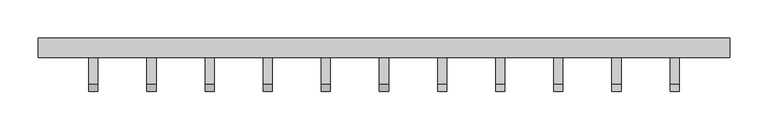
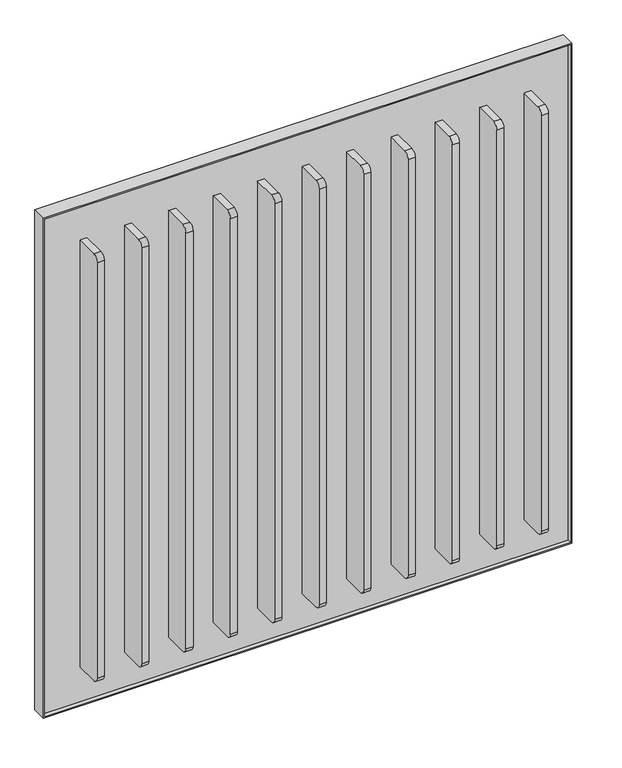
"""IFC4 building model written with IfcOpenShell, lengths in millimetres: proxy geometry, Frame_Cascade 6.3dm."""

import ifcopenshell
import ifcopenshell.guid

model = None  # the IFC model being written
_history = None  # IfcOwnerHistory: only IFC2X3 demands one
_inside = {}  # id of a spatial element -> (the spatial element, [elements in it])
_under = {}  # id of a project, library or spatial element -> (it, [spatial elements below it])
_declared = {}  # id of a project -> (the project, [libraries it declares])
_typed = {}  # id of a type object -> (the type object, [elements of that type])
_made_of = {}  # id of a material, layer set ... -> (it, [elements and type objects made of it])


def new_model(schema):
    """Start an empty IFC model of exactly this schema.

    Asked for "IFC4X3", IfcOpenShell would pick the latest addendum, in which some entities
    have other attributes; the version numbers below select the first issue.
    IFC2X3 requires an IfcOwnerHistory on every rooted entity: one is made here for all.
    """
    global model, _history
    if schema == "IFC4X3":
        model = ifcopenshell.file(schema_version=(4, 3, 0, 0))
    else:
        model = ifcopenshell.file(schema=schema)
    _inside.clear()
    _under.clear()
    _declared.clear()
    _typed.clear()
    _made_of.clear()
    _history = None
    if model.schema == "IFC2X3":
        org = make("IfcOrganization", Name="unknown")
        user = make(
            "IfcPersonAndOrganization",
            ThePerson=make("IfcPerson", FamilyName="unknown"),
            TheOrganization=org,
        )
        app = make(
            "IfcApplication",
            ApplicationDeveloper=org,
            Version="unknown",
            ApplicationFullName="unknown",
            ApplicationIdentifier="unknown",
        )
        _history = make(
            "IfcOwnerHistory",
            OwningUser=user,
            OwningApplication=app,
            ChangeAction="ADDED",
            CreationDate=0,
        )
    return model


def make(cls, **values):
    """One entity of the class cls with the attributes given. An attribute that is None is left unset."""
    return model.create_entity(
        cls, **{name: value for name, value in values.items() if value is not None}
    )


def rooted(cls, **values):
    """An entity with a GlobalId (a new one), such as an element, a storey or a relation."""
    return make(cls, GlobalId=ifcopenshell.guid.new(), OwnerHistory=_history, **values)


def si_unit(unit_type, name, prefix=None):
    """IfcSIUnit, for example si_unit("LENGTHUNIT", "METRE", prefix="MILLI")."""
    return make("IfcSIUnit", UnitType=unit_type, Prefix=prefix, Name=name)


def assignment(units):
    """IfcUnitAssignment: the units of a project."""
    return None if units is None else make("IfcUnitAssignment", Units=units)


def point(xyz):
    """IfcCartesianPoint."""
    return None if xyz is None else make("IfcCartesianPoint", Coordinates=xyz)


def direction(xyz):
    """IfcDirection."""
    return None if xyz is None else make("IfcDirection", DirectionRatios=xyz)


def frame(location, z_axis=None, x_axis=None):
    """IfcAxis2Placement3D, a coordinate frame: its origin and axes. An axis left out is left unset."""
    return make(
        "IfcAxis2Placement3D",
        Location=point(location),
        Axis=direction(z_axis),
        RefDirection=direction(x_axis),
    )


def frame_2d(location, x_axis=None):
    """IfcAxis2Placement2D, a coordinate frame in the plane: its origin and x axis."""
    return make(
        "IfcAxis2Placement2D", Location=point(location), RefDirection=direction(x_axis)
    )


def origin():
    """The frame at (0, 0, 0) with its axes left unset."""
    return frame((0.0, 0.0, 0.0))


def place(relative_to, where):
    """IfcLocalPlacement: puts the frame where relative to a parent placement (None: the world)."""
    return make(
        "IfcLocalPlacement", PlacementRelTo=relative_to, RelativePlacement=where
    )


def context(
    kind, dimensions, precision=None, world=None, true_north=None, identifier=None
):
    """IfcGeometricRepresentationContext, for example the 3D "Model" context."""
    return make(
        "IfcGeometricRepresentationContext",
        ContextIdentifier=identifier,
        ContextType=kind,
        CoordinateSpaceDimension=dimensions,
        Precision=precision,
        WorldCoordinateSystem=world,
        TrueNorth=true_north,
    )


def project(units=None, contexts=None):
    """IfcProject with its units and contexts."""
    return rooted(
        "IfcProject",
        Name="project",
        RepresentationContexts=contexts,
        UnitsInContext=assignment(units),
    )


def spatial(cls, under=None, at=None, **own):
    """A site, building, storey or space (cls), placed at a placement, below another one or the project."""
    s = rooted(cls, ObjectPlacement=at, **own)
    if under is not None:
        _under.setdefault(under.id(), (under, []))[1].append(s)
    return s


def polyline(points):
    """IfcPolyline through the points."""
    return make("IfcPolyline", Points=[point(p) for p in points])


def circle_curve(where, radius):
    """IfcCircle in the frame where."""
    return make("IfcCircle", Position=where, Radius=radius)


def trimmed(basis, trim1, trim2, sense, master):
    """IfcTrimmedCurve: the piece of a basis curve between two trims."""
    return make(
        "IfcTrimmedCurve",
        BasisCurve=basis,
        Trim1=trim1,
        Trim2=trim2,
        SenseAgreement=sense,
        MasterRepresentation=master,
    )


def segment(curve, same_sense, transition):
    """IfcCompositeCurveSegment."""
    return make(
        "IfcCompositeCurveSegment",
        Transition=transition,
        SameSense=same_sense,
        ParentCurve=curve,
    )


def composite_curve(segments, self_intersect=None):
    """IfcCompositeCurve: segments joined end to end."""
    return make("IfcCompositeCurve", Segments=segments, SelfIntersect=self_intersect)


def outline(outer, holes=None, kind="AREA"):
    """IfcArbitraryClosedProfileDef: a profile drawn as a closed curve; with holes, ...WithVoids."""
    if holes is None:
        return make("IfcArbitraryClosedProfileDef", ProfileType=kind, OuterCurve=outer)
    return make(
        "IfcArbitraryProfileDefWithVoids",
        ProfileType=kind,
        OuterCurve=outer,
        InnerCurves=holes,
    )


def extrude(swept, where, along, depth):
    """IfcExtrudedAreaSolid: the profile swept, set in the frame where, extruded along a direction by depth."""
    return make(
        "IfcExtrudedAreaSolid",
        SweptArea=swept,
        Position=where,
        ExtrudedDirection=direction(along),
        Depth=depth,
    )


def shape(context_of_items, identifier, shape_type, items):
    """IfcShapeRepresentation: the items that make up one representation, for example the "Body"."""
    return make(
        "IfcShapeRepresentation",
        ContextOfItems=context_of_items,
        RepresentationIdentifier=identifier,
        RepresentationType=shape_type,
        Items=items,
    )


def source(mapping_origin, context_of_items, identifier, shape_type, items):
    """IfcRepresentationMap: a shape defined once, which mapped items show again and again."""
    return make(
        "IfcRepresentationMap",
        MappingOrigin=mapping_origin,
        MappedRepresentation=shape(context_of_items, identifier, shape_type, items),
    )


def transform(
    local_origin,
    x_axis=None,
    y_axis=None,
    z_axis=None,
    scale=None,
    scale2=None,
    scale3=None,
    uniform=True,
):
    """IfcCartesianTransformationOperator3D, or its non-uniform kind. x_axis, y_axis, z_axis: its Axis1, 2, 3."""
    if uniform:
        return make(
            "IfcCartesianTransformationOperator3D",
            Axis1=direction(x_axis),
            Axis2=direction(y_axis),
            LocalOrigin=point(local_origin),
            Scale=scale,
            Axis3=direction(z_axis),
        )
    return make(
        "IfcCartesianTransformationOperator3DnonUniform",
        Axis1=direction(x_axis),
        Axis2=direction(y_axis),
        LocalOrigin=point(local_origin),
        Scale=scale,
        Axis3=direction(z_axis),
        Scale2=scale2,
        Scale3=scale3,
    )


def mapped(mapping_source, mapping_target):
    """IfcMappedItem: shows the shape of a source again, moved by a transform."""
    return make(
        "IfcMappedItem", MappingSource=mapping_source, MappingTarget=mapping_target
    )


def made_of(thing, what):
    """Note that an element or type object is made of a material, layer set ...; save() writes the relation."""
    if what is not None:
        _made_of.setdefault(what.id(), (what, []))[1].append(thing)
    return thing


def element(
    cls,
    number,
    at=None,
    inside=None,
    cuts=None,
    type_object=None,
    material=None,
    context=None,
    identifier="Body",
    shape_type=None,
    held_by="IfcProductDefinitionShape",
    body=None,
    shapes=None,
    **own,
):
    """One element of the class cls, such as IfcWall. Its Tag is "e" and its number.

    at: its placement. inside: the storey or other place that contains it. cuts: it is an
    opening in that element (IfcRelVoidsElement). A single representation is given by context,
    identifier, shape_type and body (its items); several are given by shapes. held_by: the class
    of the entity that holds the representations. save() writes the other relations.
    """
    e = rooted(cls, Tag="e%d" % number, ObjectPlacement=at, **own)
    if body is not None:
        shapes = [shape(context, identifier, shape_type, body)]
    if shapes is not None:
        e.Representation = make(held_by, Representations=shapes)
    if inside is not None:
        _inside.setdefault(inside.id(), (inside, []))[1].append(e)
    if cuts is not None:
        rooted(
            "IfcRelVoidsElement", RelatingBuildingElement=cuts, RelatedOpeningElement=e
        )
    if type_object is not None:
        _typed.setdefault(type_object.id(), (type_object, []))[1].append(e)
    return made_of(e, material)


def aggregate(whole, parts):
    """IfcRelAggregates: a whole, such as a stair, and the parts it consists of."""
    return rooted("IfcRelAggregates", RelatingObject=whole, RelatedObjects=parts)


def save(model, path):
    """Write the relations noted so far, then the file.

    IfcRelAggregates (storeys below a building ...), IfcRelContainedInSpatialStructure (elements
    in a storey), IfcRelDefinesByType, IfcRelAssociatesMaterial and IfcRelDeclares: one each for
    every whole, place, type object, material and project.
    """
    for whole, parts in _under.values():
        aggregate(whole, parts)
    for where, things in _inside.values():
        rooted(
            "IfcRelContainedInSpatialStructure",
            RelatedElements=things,
            RelatingStructure=where,
        )
    for kind, things in _typed.values():
        rooted("IfcRelDefinesByType", RelatedObjects=things, RelatingType=kind)
    for what, things in _made_of.values():
        rooted("IfcRelAssociatesMaterial", RelatedObjects=things, RelatingMaterial=what)
    for by, libraries in _declared.values():
        rooted("IfcRelDeclares", RelatingContext=by, RelatedDefinitions=libraries)
    model.write(path)


def generic_models_68504c34(model_context):
    return source(origin(), model_context, "Body", "SweptSolid", [
        extrude(outline(polyline([(551.5136899, 5653.130479), (1455.5136899, 5653.130479), (1455.5136899, 4749.130479), (551.5136899, 4749.130479), (551.5136899, 5653.130479)]), holes=[polyline([(553.5136899, 5651.130479), (553.5136899, 4751.130479), (1453.5136899, 4751.130479), (1453.5136899, 5651.130479), (553.5136899, 5651.130479)])]), frame((0.0, 107.5568681, 0.0), z_axis=(0.0, 1.0, 0.0), x_axis=(0.0, 0.0, 1.0)), (0.0, 0.0, 1.0), 25.4),
        extrude(outline(polyline([(5651.130479, 114.2568681), (4751.130479, 114.2568681), (4751.130479, 126.2568681), (5651.130479, 126.2568681), (5651.130479, 114.2568681)])), frame((0.0, 0.0, 553.5136899), z_axis=(0.0, 0.0, 1.0), x_axis=(1.0, 0.0, 0.0)), (0.0, 0.0, 1.0), 900.0),
        extrude(outline(composite_curve([segment(polyline([(114.2568681, 617.5136899), (72.7568681, 617.5136899)]), True, "CONTINUOUS"), segment(trimmed(circle_curve(frame_2d((72.7568681, 627.5136899)), 10.0), [point((72.7568681, 617.5136899))], [point((62.7568681, 627.5136899))], False, "CARTESIAN"), True, "CONTINUOUS"), segment(polyline([(62.7568681, 627.5136899), (62.7568681, 1379.5136899)]), True, "CONTINUOUS"), segment(trimmed(circle_curve(frame_2d((72.7568681, 1379.5136899)), 10.0), [point((62.7568681, 1379.5136899))], [point((72.7568681, 1389.5136899))], False, "CARTESIAN"), True, "CONTINUOUS"), segment(polyline([(72.7568681, 1389.5136899), (114.2568681, 1389.5136899), (114.2568681, 617.5136899)]), True, "CONTINUOUS")], self_intersect=False)), frame((5195.130479, 0.0, 0.0), z_axis=(1.0, 0.0, 0.0), x_axis=(0.0, 1.0, 0.0)), (0.0, 0.0, 1.0), 12.0),
        extrude(outline(composite_curve([segment(polyline([(114.2568681, 1389.5136899), (114.2568681, 617.5136899), (72.7568681, 617.5136899)]), True, "CONTINUOUS"), segment(trimmed(circle_curve(frame_2d((72.7568681, 627.5136899)), 10.0), [point((72.7568681, 617.5136899))], [point((62.7568681, 627.5136899))], False, "CARTESIAN"), True, "CONTINUOUS"), segment(polyline([(62.7568681, 627.5136899), (62.7568681, 1379.5136899)]), True, "CONTINUOUS"), segment(trimmed(circle_curve(frame_2d((72.7568681, 1379.5136899)), 10.0), [point((62.7568681, 1379.5136899))], [point((72.7568681, 1389.5136899))], False, "CARTESIAN"), True, "CONTINUOUS"), segment(polyline([(72.7568681, 1389.5136899), (114.2568681, 1389.5136899)]), True, "CONTINUOUS")], self_intersect=False)), frame((5271.130479, 0.0, 0.0), z_axis=(1.0, 0.0, 0.0), x_axis=(0.0, 1.0, 0.0)), (0.0, 0.0, 1.0), 12.0),
        extrude(outline(composite_curve([segment(polyline([(114.2568681, 1389.5136899), (114.2568681, 617.5136899), (72.7568681, 617.5136899)]), True, "CONTINUOUS"), segment(trimmed(circle_curve(frame_2d((72.7568681, 627.5136899)), 10.0), [point((72.7568681, 617.5136899))], [point((62.7568681, 627.5136899))], False, "CARTESIAN"), True, "CONTINUOUS"), segment(polyline([(62.7568681, 627.5136899), (62.7568681, 1379.5136899)]), True, "CONTINUOUS"), segment(trimmed(circle_curve(frame_2d((72.7568681, 1379.5136899)), 10.0), [point((62.7568681, 1379.5136899))], [point((72.7568681, 1389.5136899))], False, "CARTESIAN"), True, "CONTINUOUS"), segment(polyline([(72.7568681, 1389.5136899), (114.2568681, 1389.5136899)]), True, "CONTINUOUS")], self_intersect=False)), frame((5347.130479, 0.0, 0.0), z_axis=(1.0, 0.0, 0.0), x_axis=(0.0, 1.0, 0.0)), (0.0, 0.0, 1.0), 12.0),
        extrude(outline(composite_curve([segment(polyline([(114.2568681, 617.5136899), (72.7568681, 617.5136899)]), True, "CONTINUOUS"), segment(trimmed(circle_curve(frame_2d((72.7568681, 627.5136899)), 10.0), [point((72.7568681, 617.5136899))], [point((62.7568681, 627.5136899))], False, "CARTESIAN"), True, "CONTINUOUS"), segment(polyline([(62.7568681, 627.5136899), (62.7568681, 1379.5136899)]), True, "CONTINUOUS"), segment(trimmed(circle_curve(frame_2d((72.7568681, 1379.5136899)), 10.0), [point((62.7568681, 1379.5136899))], [point((72.7568681, 1389.5136899))], False, "CARTESIAN"), True, "CONTINUOUS"), segment(polyline([(72.7568681, 1389.5136899), (114.2568681, 1389.5136899), (114.2568681, 617.5136899)]), True, "CONTINUOUS")], self_intersect=False)), frame((4967.130479, 0.0, 0.0), z_axis=(1.0, 0.0, 0.0), x_axis=(0.0, 1.0, 0.0)), (0.0, 0.0, 1.0), 12.0),
        extrude(outline(composite_curve([segment(polyline([(114.2568681, 1389.5136899), (114.2568681, 617.5136899), (72.7568681, 617.5136899)]), True, "CONTINUOUS"), segment(trimmed(circle_curve(frame_2d((72.7568681, 627.5136899)), 10.0), [point((72.7568681, 617.5136899))], [point((62.7568681, 627.5136899))], False, "CARTESIAN"), True, "CONTINUOUS"), segment(polyline([(62.7568681, 627.5136899), (62.7568681, 1379.5136899)]), True, "CONTINUOUS"), segment(trimmed(circle_curve(frame_2d((72.7568681, 1379.5136899)), 10.0), [point((62.7568681, 1379.5136899))], [point((72.7568681, 1389.5136899))], False, "CARTESIAN"), True, "CONTINUOUS"), segment(polyline([(72.7568681, 1389.5136899), (114.2568681, 1389.5136899)]), True, "CONTINUOUS")], self_intersect=False)), frame((5499.130479, 0.0, 0.0), z_axis=(1.0, 0.0, 0.0), x_axis=(0.0, 1.0, 0.0)), (0.0, 0.0, 1.0), 12.0),
        extrude(outline(composite_curve([segment(polyline([(114.2568681, 617.5136899), (72.7568681, 617.5136899)]), True, "CONTINUOUS"), segment(trimmed(circle_curve(frame_2d((72.7568681, 627.5136899)), 10.0), [point((72.7568681, 617.5136899))], [point((62.7568681, 627.5136899))], False, "CARTESIAN"), True, "CONTINUOUS"), segment(polyline([(62.7568681, 627.5136899), (62.7568681, 1379.5136899)]), True, "CONTINUOUS"), segment(trimmed(circle_curve(frame_2d((72.7568681, 1379.5136899)), 10.0), [point((62.7568681, 1379.5136899))], [point((72.7568681, 1389.5136899))], False, "CARTESIAN"), True, "CONTINUOUS"), segment(polyline([(72.7568681, 1389.5136899), (114.2568681, 1389.5136899), (114.2568681, 617.5136899)]), True, "CONTINUOUS")], self_intersect=False)), frame((4891.130479, 0.0, 0.0), z_axis=(1.0, 0.0, 0.0), x_axis=(0.0, 1.0, 0.0)), (0.0, 0.0, 1.0), 12.0),
        extrude(outline(composite_curve([segment(polyline([(114.2568681, 617.5136899), (72.7568681, 617.5136899)]), True, "CONTINUOUS"), segment(trimmed(circle_curve(frame_2d((72.7568681, 627.5136899)), 10.0), [point((72.7568681, 617.5136899))], [point((62.7568681, 627.5136899))], False, "CARTESIAN"), True, "CONTINUOUS"), segment(polyline([(62.7568681, 627.5136899), (62.7568681, 1379.5136899)]), True, "CONTINUOUS"), segment(trimmed(circle_curve(frame_2d((72.7568681, 1379.5136899)), 10.0), [point((62.7568681, 1379.5136899))], [point((72.7568681, 1389.5136899))], False, "CARTESIAN"), True, "CONTINUOUS"), segment(polyline([(72.7568681, 1389.5136899), (114.2568681, 1389.5136899), (114.2568681, 617.5136899)]), True, "CONTINUOUS")], self_intersect=False)), frame((5119.130479, 0.0, 0.0), z_axis=(1.0, 0.0, 0.0), x_axis=(0.0, 1.0, 0.0)), (0.0, 0.0, 1.0), 12.0),
        extrude(outline(composite_curve([segment(polyline([(114.2568681, 1389.5136899), (114.2568681, 617.5136899), (72.7568681, 617.5136899)]), True, "CONTINUOUS"), segment(trimmed(circle_curve(frame_2d((72.7568681, 627.5136899)), 10.0), [point((72.7568681, 617.5136899))], [point((62.7568681, 627.5136899))], False, "CARTESIAN"), True, "CONTINUOUS"), segment(polyline([(62.7568681, 627.5136899), (62.7568681, 1379.5136899)]), True, "CONTINUOUS"), segment(trimmed(circle_curve(frame_2d((72.7568681, 1379.5136899)), 10.0), [point((62.7568681, 1379.5136899))], [point((72.7568681, 1389.5136899))], False, "CARTESIAN"), True, "CONTINUOUS"), segment(polyline([(72.7568681, 1389.5136899), (114.2568681, 1389.5136899)]), True, "CONTINUOUS")], self_intersect=False)), frame((5575.130479, 0.0, 0.0), z_axis=(1.0, 0.0, 0.0), x_axis=(0.0, 1.0, 0.0)), (0.0, 0.0, 1.0), 12.0),
        extrude(outline(composite_curve([segment(polyline([(114.2568681, 617.5136899), (72.7568681, 617.5136899)]), True, "CONTINUOUS"), segment(trimmed(circle_curve(frame_2d((72.7568681, 627.5136899)), 10.0), [point((72.7568681, 617.5136899))], [point((62.7568681, 627.5136899))], False, "CARTESIAN"), True, "CONTINUOUS"), segment(polyline([(62.7568681, 627.5136899), (62.7568681, 1379.5136899)]), True, "CONTINUOUS"), segment(trimmed(circle_curve(frame_2d((72.7568681, 1379.5136899)), 10.0), [point((62.7568681, 1379.5136899))], [point((72.7568681, 1389.5136899))], False, "CARTESIAN"), True, "CONTINUOUS"), segment(polyline([(72.7568681, 1389.5136899), (114.2568681, 1389.5136899), (114.2568681, 617.5136899)]), True, "CONTINUOUS")], self_intersect=False)), frame((5043.130479, 0.0, 0.0), z_axis=(1.0, 0.0, 0.0), x_axis=(0.0, 1.0, 0.0)), (0.0, 0.0, 1.0), 12.0),
        extrude(outline(composite_curve([segment(polyline([(114.2568681, 1389.5136899), (114.2568681, 617.5136899), (72.7568681, 617.5136899)]), True, "CONTINUOUS"), segment(trimmed(circle_curve(frame_2d((72.7568681, 627.5136899)), 10.0), [point((72.7568681, 617.5136899))], [point((62.7568681, 627.5136899))], False, "CARTESIAN"), True, "CONTINUOUS"), segment(polyline([(62.7568681, 627.5136899), (62.7568681, 1379.5136899)]), True, "CONTINUOUS"), segment(trimmed(circle_curve(frame_2d((72.7568681, 1379.5136899)), 10.0), [point((62.7568681, 1379.5136899))], [point((72.7568681, 1389.5136899))], False, "CARTESIAN"), True, "CONTINUOUS"), segment(polyline([(72.7568681, 1389.5136899), (114.2568681, 1389.5136899)]), True, "CONTINUOUS")], self_intersect=False)), frame((5423.130479, 0.0, 0.0), z_axis=(1.0, 0.0, 0.0), x_axis=(0.0, 1.0, 0.0)), (0.0, 0.0, 1.0), 12.0),
        extrude(outline(composite_curve([segment(polyline([(114.2568681, 617.5136899), (72.7568681, 617.5136899)]), True, "CONTINUOUS"), segment(trimmed(circle_curve(frame_2d((72.7568681, 627.5136899)), 10.0), [point((72.7568681, 617.5136899))], [point((62.7568681, 627.5136899))], False, "CARTESIAN"), True, "CONTINUOUS"), segment(polyline([(62.7568681, 627.5136899), (62.7568681, 1379.5136899)]), True, "CONTINUOUS"), segment(trimmed(circle_curve(frame_2d((72.7568681, 1379.5136899)), 10.0), [point((62.7568681, 1379.5136899))], [point((72.7568681, 1389.5136899))], False, "CARTESIAN"), True, "CONTINUOUS"), segment(polyline([(72.7568681, 1389.5136899), (114.2568681, 1389.5136899), (114.2568681, 617.5136899)]), True, "CONTINUOUS")], self_intersect=False)), frame((4815.130479, 0.0, 0.0), z_axis=(1.0, 0.0, 0.0), x_axis=(0.0, 1.0, 0.0)), (0.0, 0.0, 1.0), 12.0),
    ])


if __name__ == "__main__":
    model = new_model("IFC4")
    model_context = context("Model", 3, world=origin())
    ifc_project = project(units=[si_unit("LENGTHUNIT", "METRE", prefix="MILLI")], contexts=[model_context])
    site = spatial("IfcSite", under=ifc_project)
    building = spatial("IfcBuilding", under=site)
    placement = place(None, origin())
    generic_models_shape = generic_models_68504c34(model_context)
    element("IfcBuildingElementProxy", 1, Name="Frame_Cascade 6.3dm", ObjectType="Frame_Cascade 6.3dm", at=placement, inside=building, context=model_context, shape_type="MappedRepresentation", body=[
        mapped(generic_models_shape, transform((0.0, 0.0, 0.0), x_axis=(1.0, 0.0, 0.0), y_axis=(0.0, 1.0, 0.0), z_axis=(0.0, 0.0, 1.0))),
    ])
    save(model, "model.ifc")
